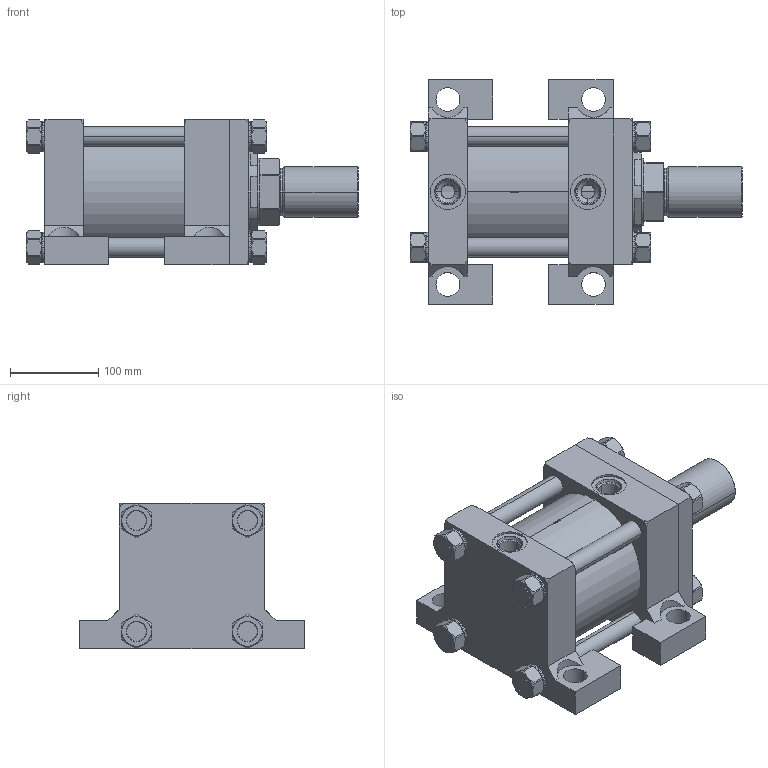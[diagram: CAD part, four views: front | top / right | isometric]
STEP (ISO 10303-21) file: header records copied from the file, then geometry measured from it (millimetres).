
FILE_DESCRIPTION (( 'STEP AP214' ), '1' );
FILE_NAME ('5.00C2HHNAT144A2.000.step', '2026-03-26T21:12:58', ( '' ), ( '' ), 'SwSTEP 2.0', 'SolidWorks 2023', '' );
FILE_SCHEMA (( 'AUTOMOTIVE_DESIGN' ));
Length unit declared in the file: inch
Products named in the file (1): 5.00C2HHNAT144A2.000
Bounding box: 376.24 x 254 x 165.1 mm (x, y, z)
Volume: 5538697.6 mm3; surface area: 734092.2 mm2
Topology: 44 solids, 44 shells, 1217 faces, 3139 edges, 2018 vertices
Faces by surface type: plane 795, cylinder 221, cone 163, bspline 30, torus 8
Entity records: 55238 total; most frequent: CARTESIAN_POINT 11055, ORIENTED_EDGE 6278, DIRECTION 5157, EDGE_CURVE 3139, VERTEX_POINT 2018, AXIS2_PLACEMENT_3D 1750, LINE 1657, VECTOR 1657
